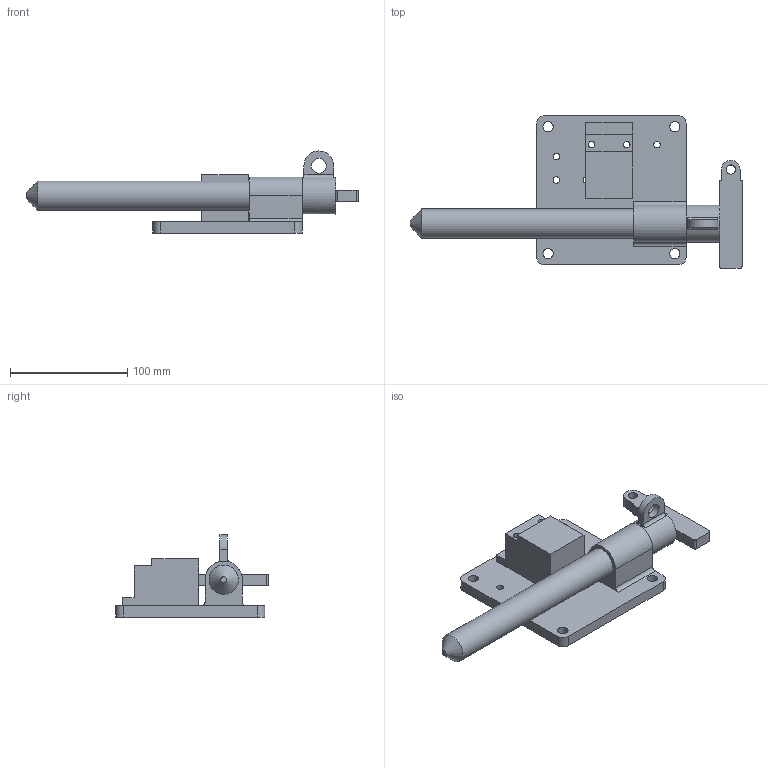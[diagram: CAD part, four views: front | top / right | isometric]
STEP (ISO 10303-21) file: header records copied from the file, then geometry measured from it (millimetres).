
FILE_DESCRIPTION(/* description */ (''),/* implementation_level */ '2;1');
FILE_NAME(/* name */ 'C:\Users\rcarver\Desktop\Tru-LOK pin\GM\With Switch\SP25Y225TR00200.stp',/* time_stamp */ '2016-06-24T13:30:41-04:00',/* author */ ('rcarver'),/* organization */ (''),/* preprocessor_version */ 'ST-DEVELOPER v16.5',/* originating_system */ 'Autodesk Inventor 2017',/* authorisation */ '');
FILE_SCHEMA (('AUTOMOTIVE_DESIGN { 1 0 10303 214 3 1 1 }'));
Length unit declared in the file: millimetre
Products named in the file (1): SP25Y225TR00200
Bounding box: 282.62 x 130.18 x 69.85 mm (x, y, z)
Volume: 415384.2 mm3; surface area: 81836 mm2
Topology: 3 solids, 3 shells, 69 faces, 192 edges, 131 vertices
Faces by surface type: plane 37, cylinder 31, cone 1
Full cylindrical faces by diameter (mm): 5.588 x2, 5.59 x6, 7.94 x1, 8.74 x4, 12.7 x1, 25 x1, 31.75 x1
Entity records: 2178 total; most frequent: DIRECTION 368, CARTESIAN_POINT 346, ORIENTED_EDGE 320, EDGE_CURVE 160, AXIS2_PLACEMENT_3D 138, EDGE_LOOP 116, VERTEX_POINT 116, LINE 92
